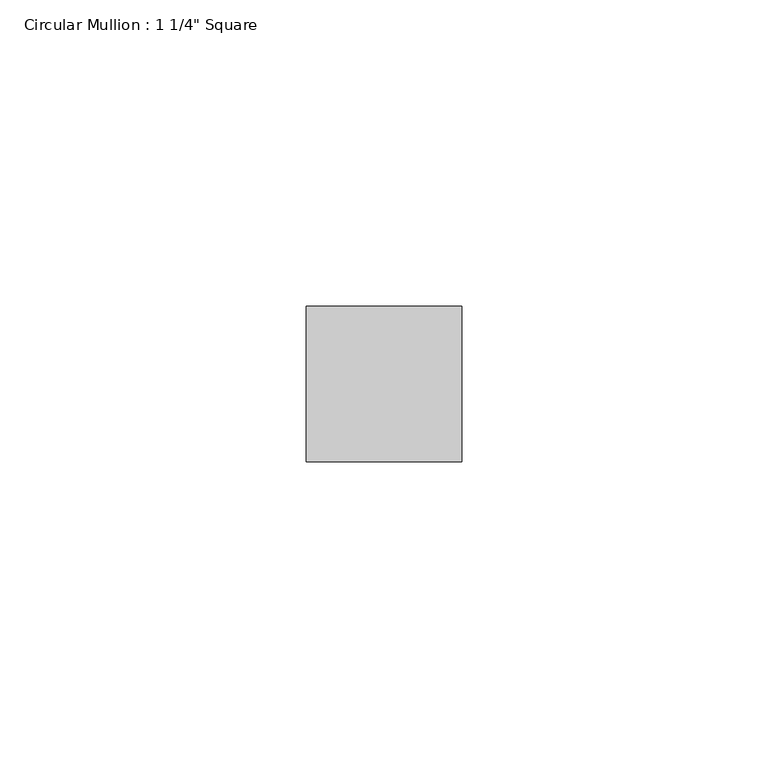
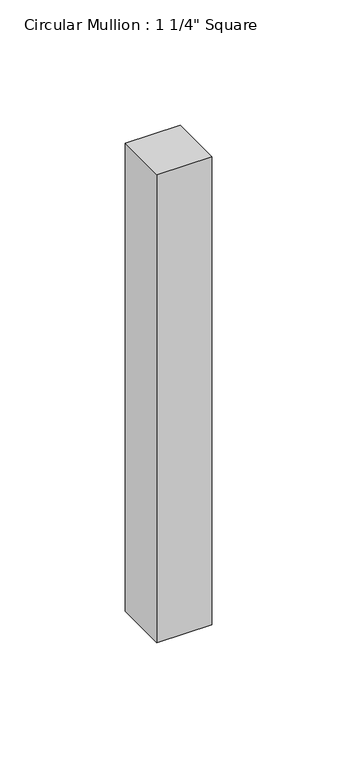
"""IFC4 building model written with IfcOpenShell, lengths in millimetres: member geometry."""

from ifc_helpers import new_model, si_unit, frame, origin, place, context, project, spatial, polyline, outline, extrude, source, transform, mapped, element, save


def member_4e7b30ca(model_context):
    return source(origin(), model_context, "Body", "SweptSolid", [
        extrude(outline(polyline([(0.0, 12.7), (0.0, -12.7), (-25.4, -12.7), (-25.4, 12.7), (0.0, 12.7)])), frame((0.0, 0.0, -228.5999997), z_axis=(0.0, 0.0, 1.0), x_axis=(1.0, 0.0, 0.0)), (0.0, 0.0, 1.0), 228.5999997),
    ])


if __name__ == "__main__":
    model = new_model("IFC4")
    model_context = context("Model", 3, world=origin())
    ifc_project = project(units=[si_unit("LENGTHUNIT", "METRE", prefix="MILLI")], contexts=[model_context])
    site = spatial("IfcSite", under=ifc_project)
    building = spatial("IfcBuilding", under=site)
    placement = place(None, origin())
    member_shape = member_4e7b30ca(model_context)
    element("IfcMember", 1, ObjectType="Circular Mullion : 1 1/4\" Square", at=placement, inside=building, context=model_context, shape_type="MappedRepresentation", body=[
        mapped(member_shape, transform((0.0, 0.0, 0.0), x_axis=(1.0, 0.0, 0.0), y_axis=(0.0, 1.0, 0.0), z_axis=(0.0, 0.0, 1.0))),
    ])
    save(model, "model.ifc")
